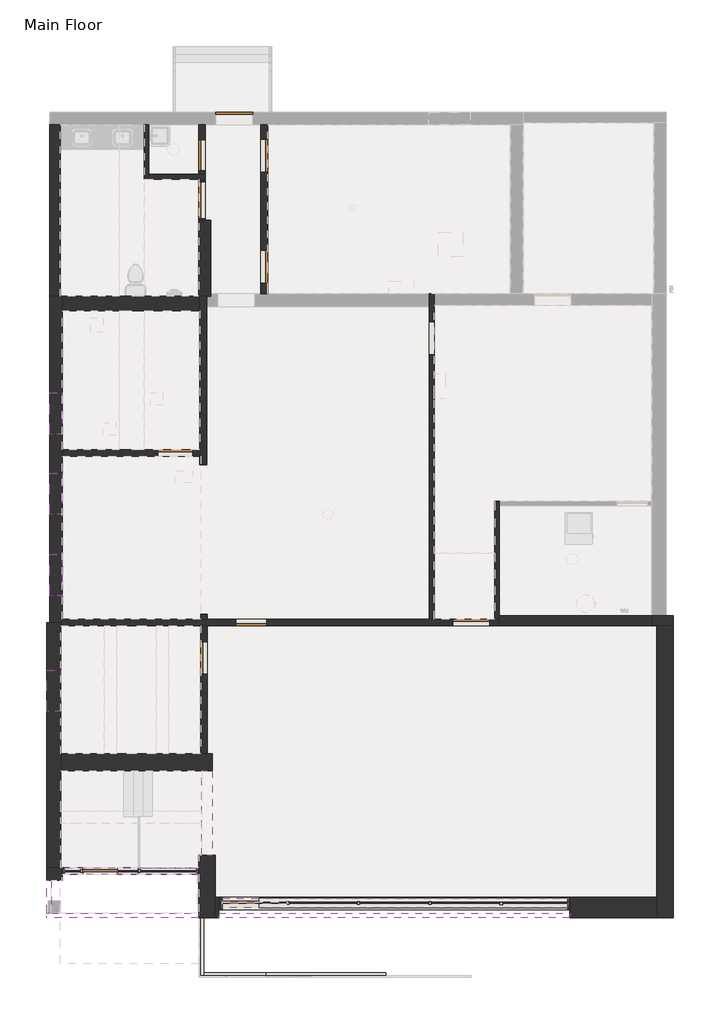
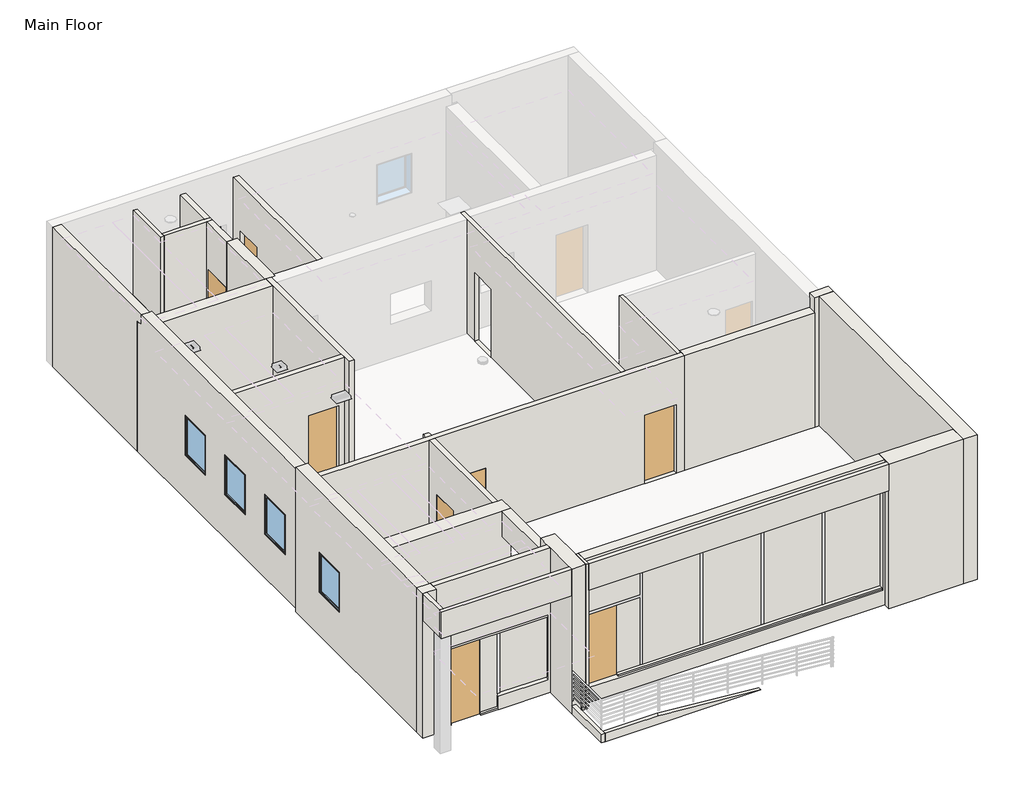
# One storey, part 1 of 4: 40 walls, 11 doors, 4 windows.
"""IFC4 building model written with IfcOpenShell, lengths in millimetres."""

from ifc_helpers import new_model, si_unit, frame, origin, origin_with_axes, place, context, project, spatial, polyline, outline, extrude, faceted_brep, transform, mapped, element, save
from components import door_8f505d4d, door_68a9ab76, door_cadf0f2e, door_f847712d, door_7d3dd137, door_64db3e48, door_4b2f242a, door_d5a2d4af, window_879c5c3a, window_c6188165

model = new_model("IFC4")

# Units and contexts
model_context = context("Model", 3, world=origin())
ifc_project = project(units=[si_unit("LENGTHUNIT", "METRE", prefix="MILLI")], contexts=[model_context])

# Site, building, storey
site = spatial("IfcSite", under=ifc_project)
building = spatial("IfcBuilding", under=site)
storey = spatial("IfcBuildingStorey", under=building, Name="Main Floor", Elevation=0.0)

# Doors
placement = place(None, origin())
door_shape = door_8f505d4d(model_context)
element("IfcDoor", 1, ObjectType="Planitar - Single Door_Flush Panel : 2'-10\" x 6'-8\"", at=placement, inside=storey, context=model_context, shape_type="MappedRepresentation", body=[
    mapped(door_shape, transform((-2570.8870003, 1779.2171333, 457.2), x_axis=(1.0, 0.0, 0.0), y_axis=(0.0, 1.0, 0.0), z_axis=(0.0, 0.0, 1.0))),
])
door_2_shape = door_68a9ab76(model_context)
element("IfcDoor", 2, ObjectType="Planitar - Single Door_Flush Panel : 2'-10\" x 6'-8\"", at=placement, inside=storey, context=model_context, shape_type="MappedRepresentation", body=[
    mapped(door_2_shape, transform((-4430.0919657, -8558.5828667, 0.0), x_axis=(-1.0, 0.0, 0.0), y_axis=(0.0, -1.0, 0.0), z_axis=(0.0, 0.0, 1.0))),
])
door_3_shape = door_cadf0f2e(model_context)
element("IfcDoor", 3, ObjectType="Planitar - Single Door_Flush Panel : 2'-6\" x 6'-8\"", at=placement, inside=storey, context=model_context, shape_type="MappedRepresentation", body=[
    mapped(door_3_shape, transform((-695.8227003, -2411.7828667, 457.2), x_axis=(-1.0, 0.0, 0.0), y_axis=(0.0, -1.0, 0.0), z_axis=(0.0, 0.0, 1.0))),
])
door_4_shape = door_f847712d(model_context)
element("IfcDoor", 4, ObjectType="Planitar - Single Door_Flush Panel : 2'-6\" x 6'-8\"", at=placement, inside=storey, context=model_context, shape_type="MappedRepresentation", body=[
    mapped(door_4_shape, transform((-1916.8370003, 9142.0421333, 457.2), x_axis=(0.0, -1.0, 0.0), y_axis=(1.0, 0.0, 0.0), z_axis=(0.0, 0.0, 1.0))),
])
door_5_shape = door_7d3dd137(model_context)
element("IfcDoor", 5, ObjectType="Planitar - Single Door_Flush Panel : 2'-8\" x 6'-8\"", at=placement, inside=storey, context=model_context, shape_type="MappedRepresentation", body=[
    mapped(door_5_shape, transform((-1866.0370003, -3288.0828667, 457.2), x_axis=(0.0, 1.0, 0.0), y_axis=(-1.0, 0.0, 0.0), z_axis=(0.0, 0.0, 1.0))),
])
element("IfcDoor", 6, ObjectType="Planitar - Single Door_Flush Panel : 2'-8\" x 6'-8\"", at=placement, inside=storey, context=model_context, shape_type="MappedRepresentation", body=[
    mapped(door_5_shape, transform((-373.7870003, 6389.3171333, 457.2), x_axis=(0.0, -1.0, 0.0), y_axis=(1.0, 0.0, 0.0), z_axis=(0.0, 0.0, 1.0))),
])
element("IfcDoor", 7, ObjectType="Planitar - Single Door_Flush Panel : 2'-8\" x 6'-8\"", at=placement, inside=storey, context=model_context, shape_type="MappedRepresentation", body=[
    mapped(door_5_shape, transform((-373.7870003, 9132.5171333, 457.2), x_axis=(0.0, -1.0, 0.0), y_axis=(1.0, 0.0, 0.0), z_axis=(0.0, 0.0, 1.0))),
])
door_6_shape = door_64db3e48(model_context)
element("IfcDoor", 8, ObjectType="Planitar - Single Door_Flush Panel : 3'-0\" x 6'-8\"", at=placement, inside=storey, context=model_context, shape_type="MappedRepresentation", body=[
    mapped(door_6_shape, transform((4747.4879997, -2411.7828667, 457.2), x_axis=(-1.0, 0.0, 0.0), y_axis=(0.0, -1.0, 0.0), z_axis=(0.0, 0.0, 1.0))),
])
element("IfcDoor", 9, ObjectType="Planitar - Single Door_Flush Panel : 3'-0\" x 6'-8\"", at=placement, inside=storey, context=model_context, shape_type="MappedRepresentation", body=[
    mapped(door_6_shape, transform((-1916.8370003, 8028.8871333, 457.2), x_axis=(0.0, -1.0, 0.0), y_axis=(1.0, 0.0, 0.0), z_axis=(0.0, 0.0, 1.0))),
])
door_7_shape = door_4b2f242a(model_context)
element("IfcDoor", 10, ObjectType="Planitar - Single Door_Flush Panel : 3'-0\" x 6'-8\"", at=placement, inside=storey, context=model_context, shape_type="MappedRepresentation", body=[
    mapped(door_7_shape, transform((-951.4226214, -9345.9828667, 457.2), x_axis=(-1.0, 0.0, 0.0), y_axis=(0.0, -1.0, 0.0), z_axis=(0.0, 0.0, 1.0))),
])
door_8_shape = door_d5a2d4af(model_context)
element("IfcDoor", 11, ObjectType="Planitar - Single Door_Flush Panel : 3'-0\" x 6'-8\"", at=placement, inside=storey, context=model_context, shape_type="MappedRepresentation", body=[
    mapped(door_8_shape, transform((-1119.9120003, 10053.2671333, 457.2), x_axis=(1.0, 0.0, 0.0), y_axis=(0.0, 1.0, 0.0), z_axis=(0.0, 0.0, 1.0))),
])

# Walls
element("IfcWall", 12, ObjectType="Planitar - Generic 1' - 4\"", at=placement, inside=storey, context=model_context, shape_type="Brep", body=[
    faceted_brep([(9333.0001997, -2494.3328667, 4419.6), (9333.0001997, -2494.3328667, 0.0), (9333.0001997, -9206.2828667, 0.0), (9333.0001997, -9714.2828667, 0.0), (9333.0001997, -9714.2828667, 4419.6), (9333.0001997, -9206.2828667, 4419.6), (9739.4001997, -2494.3328667, 0.0), (9739.4001997, -2494.3328667, 4419.6), (9739.4001997, -9714.2828667, 4419.6), (9739.4001997, -9714.2828667, 0.0)], [[[0, 1, 2, 3, 4, 5]], [[6, 7, 8, 9]], [[3, 2, 1, 6, 9]], [[0, 5, 4, 8, 7]], [[4, 3, 9, 8]], [[0, 7, 6, 1]]]),
])
element("IfcWall", 13, ObjectType="Planitar - Generic 1' - 8\"", at=placement, inside=storey, context=model_context, shape_type="Brep", body=[
    faceted_brep([(9333.0001997, -9206.2828667, 0.0), (7181.1756997, -9206.2828667, 0.0), (7181.1756997, -9206.2828667, 4419.6), (9333.0001997, -9206.2828667, 4419.6), (9333.0001997, -9714.2828667, 0.0), (9333.0001997, -9714.2828667, 4419.6), (7181.1756997, -9714.2828667, 4419.6), (7181.1756997, -9714.2828667, 0.0), (7181.1756997, -9511.0828667, 0.0), (7181.1756997, -9511.0828667, 4419.6)], [[[0, 1, 2, 3]], [[4, 5, 6, 7]], [[1, 0, 4, 7, 8]], [[3, 2, 9, 6, 5]], [[0, 3, 5, 4]], [[1, 8, 7, 6, 9, 2]]]),
])
element("IfcWall", 14, ObjectType="Planitar - Generic 1' - 4\"", at=placement, inside=storey, context=model_context, shape_type="Brep", body=[
    faceted_brep([(-1586.6370003, -9714.2828667, 4419.6), (-1586.6370003, -9714.2828667, 0.0), (-1586.6370003, -9206.2828667, 0.0), (-1586.6370003, -8164.8828667, 0.0), (-1586.6370003, -8164.8828667, 4419.6), (-1586.6370003, -9206.2828667, 4419.6), (-1993.0370003, -9714.2828667, 0.0), (-1993.0370003, -9714.2828667, 3606.8), (-1993.0370003, -9714.2828667, 4419.6), (-1993.0370003, -9599.9828667, 4419.6), (-1993.0370003, -8641.1328667, 4419.6), (-1993.0370003, -8476.0328667, 4419.6), (-1993.0370003, -8164.8828667, 4419.6), (-1993.0370003, -8164.8828667, 0.0), (-1993.0370003, -8476.0328667, 0.0), (-1993.0370003, -8641.1328667, 0.0), (-1873.3370003, -9714.2828667, 0.0), (-1987.6370003, -9714.2828667, 0.0)], [[[0, 1, 2, 3, 4, 5]], [[6, 7, 8, 9, 10, 11, 12, 13, 14, 15]], [[3, 2, 1, 16, 17, 6, 15, 14, 13]], [[4, 3, 13, 12]], [[0, 5, 4, 12, 11, 10, 9, 8]], [[0, 8, 7, 6, 17, 16, 1]]]),
])
element("IfcWall", 15, ObjectType="Planitar - Generic 6 1/2\"", at=placement, inside=storey, context=model_context, shape_type="Brep", body=[
    faceted_brep([(-1993.0370003, -8476.0328667, 0.0), (-3491.6370003, -8476.0328667, 0.0), (-3491.6370003, -8476.0328667, 406.4), (-2043.8370003, -8476.0328667, 406.4), (-2043.8370003, -8476.0328667, 2336.8), (-2043.8370003, -8476.0328667, 2387.6), (-5320.4370003, -8476.0328667, 2387.6), (-5320.4370003, -8476.0328667, 2336.8), (-5320.4370003, -8476.0328667, 50.8), (-5320.4370003, -8476.0328667, 0.0), (-5371.2370003, -8476.0328667, 0.0), (-5371.2370003, -8476.0328667, 4419.6), (-1993.0370003, -8476.0328667, 4419.6), (-1993.0370003, -8641.1328667, 0.0), (-1993.0370003, -8641.1328667, 4419.6), (-5371.2370003, -8641.1328667, 4419.6), (-5371.2370003, -8641.1328667, 0.0), (-5320.4370003, -8641.1328667, 0.0), (-5320.4370003, -8641.1328667, 50.8), (-5320.4370003, -8641.1328667, 2336.8), (-5320.4370003, -8641.1328667, 2387.6), (-2043.8370003, -8641.1328667, 2387.6), (-2043.8370003, -8641.1328667, 2336.8), (-2043.8370003, -8641.1328667, 406.4), (-3491.6370003, -8641.1328667, 406.4), (-3491.6370003, -8641.1328667, 0.0)], [[[0, 1, 2, 3, 4, 5, 6, 7, 8, 9, 10, 11, 12]], [[13, 14, 15, 16, 17, 18, 19, 20, 21, 22, 23, 24, 25]], [[0, 12, 14, 13]], [[1, 0, 13, 25]], [[11, 10, 16, 15]], [[12, 11, 15, 14]], [[6, 5, 21, 20]], [[10, 9, 17, 16]], [[6, 20, 19, 18, 17, 9, 8, 7]], [[3, 23, 22, 21, 5, 4]], [[2, 1, 25, 24]], [[3, 2, 24, 23]]]),
])
element("IfcWall", 16, ObjectType="Planitar - Generic 1' - 2\"", at=placement, inside=storey, context=model_context, shape_type="Brep", body=[
    faceted_brep([(-5402.8321003, -8476.0328667, 4419.6), (-5402.8321003, -8476.0328667, 0.0), (-5402.8321003, -6082.0828667, 0.0), (-5402.8321003, -5650.2828667, 0.0), (-5402.8321003, -2494.3328667, 0.0), (-5402.8321003, -2411.7828667, 0.0), (-5402.8321003, -2411.7828667, 3962.4), (-5402.8321003, -2411.7828667, 4419.6), (-5402.8321003, -4605.7078667, 1320.8), (-5402.8321003, -4605.7078667, 2540.0), (-5402.8321003, -3589.7078667, 2540.0), (-5402.8321003, -3589.7078667, 1320.8), (-5758.4321003, -8476.0328667, 0.0), (-5758.4321003, -8476.0328667, 4419.6), (-5758.4321003, -2411.7828667, 4419.6), (-5758.4321003, -2411.7828667, 0.0), (-5758.4321003, -4605.7078667, 1320.8), (-5758.4321003, -3589.7078667, 1320.8), (-5758.4321003, -3589.7078667, 2540.0), (-5758.4321003, -4605.7078667, 2540.0), (-5676.0370003, -2411.7828667, 0.0)], [[[0, 1, 2, 3, 4, 5, 6, 7], [8, 9, 10, 11]], [[12, 13, 14, 15], [16, 17, 18, 19]], [[5, 4, 3, 2, 1, 12, 15, 20]], [[0, 7, 14, 13]], [[9, 8, 16, 19]], [[10, 9, 19, 18]], [[11, 10, 18, 17]], [[8, 11, 17, 16]], [[5, 20, 15, 14, 7, 6]], [[0, 13, 12, 1]]]),
])
element("IfcWall", 17, ObjectType="Planitar - Generic 1' - 5\"", at=placement, inside=storey, context=model_context, shape_type="Brep", body=[
    faceted_brep([(-5402.8321003, -6082.0828667, 0.0), (-1662.8370003, -6082.0828667, 0.0), (-1662.8370003, -6082.0828667, 3200.4), (-1662.8370003, -6082.0828667, 3962.4), (-1916.8370003, -6082.0828667, 3962.4), (-5402.8321003, -6082.0828667, 3962.4), (-5402.8321003, -5650.2828667, 0.0), (-5402.8321003, -5650.2828667, 3962.4), (-1948.5870003, -5650.2828667, 3962.4), (-1783.4870003, -5650.2828667, 3962.4), (-1662.8370003, -5650.2828667, 3962.4), (-1662.8370003, -5650.2828667, 0.0), (-1783.4870003, -5650.2828667, 0.0), (-1948.5870003, -5650.2828667, 0.0)], [[[0, 1, 2, 3, 4, 5]], [[6, 7, 8, 9, 10, 11, 12, 13]], [[1, 0, 6, 13, 12, 11]], [[5, 4, 3, 10, 9, 8, 7]], [[0, 5, 7, 6]], [[3, 2, 1, 11, 10]]]),
])
element("IfcWall", 18, ObjectType="Planitar - Generic 1' - 0\"", at=placement, inside=storey, context=model_context, shape_type="Brep", body=[
    faceted_brep([(-5371.2370003, -2411.7828667, 4267.2), (-5371.2370003, -2411.7828667, 3962.4), (-5371.2370003, -2411.7828667, 0.0), (-5371.2370003, -2329.2328667, 0.0), (-5371.2370003, 1696.6671333, 0.0), (-5371.2370003, 1861.7671333, 0.0), (-5371.2370003, 5297.1171333, 0.0), (-5371.2370003, 5652.7171333, 0.0), (-5371.2370003, 5652.7171333, 3962.4), (-5371.2370003, 5474.9171333, 3962.4), (-5371.2370003, 5474.9171333, 4267.2), (-5371.2370003, 2249.1171333, 1320.8), (-5371.2370003, 2249.1171333, 2540.0), (-5371.2370003, 3265.1171333, 2540.0), (-5371.2370003, 3265.1171333, 1320.8), (-5371.2370003, 263.8184333, 1320.8), (-5371.2370003, 263.8184333, 2540.0), (-5371.2370003, 1279.8184333, 2540.0), (-5371.2370003, 1279.8184333, 1320.8), (-5371.2370003, -1744.1912667, 1320.8), (-5371.2370003, -1744.1912667, 2540.0), (-5371.2370003, -728.1912667, 2540.0), (-5371.2370003, -728.1912667, 1320.8), (-5676.0370003, -2411.7828667, 0.0), (-5676.0370003, -2411.7828667, 4267.2), (-5676.0370003, 5474.9171333, 4267.2), (-5676.0370003, 5474.9171333, 3962.4), (-5676.0370003, 5652.7171333, 3962.4), (-5676.0370003, 5652.7171333, 0.0), (-5676.0370003, 2249.1171333, 1320.8), (-5676.0370003, 3265.1171333, 1320.8), (-5676.0370003, 3265.1171333, 2540.0), (-5676.0370003, 2249.1171333, 2540.0), (-5676.0370003, 263.8184333, 1320.8), (-5676.0370003, 1279.8184333, 1320.8), (-5676.0370003, 1279.8184333, 2540.0), (-5676.0370003, 263.8184333, 2540.0), (-5676.0370003, -1744.1912667, 1320.8), (-5676.0370003, -728.1912667, 1320.8), (-5676.0370003, -728.1912667, 2540.0), (-5676.0370003, -1744.1912667, 2540.0), (-5402.8321003, -2411.7828667, 0.0), (-5422.0370003, 5652.7171333, 0.0), (-5422.0370003, 5474.9171333, 4267.2), (-5422.0370003, 5474.9171333, 3962.4), (-5422.0370003, 5652.7171333, 3962.4)], [[[0, 1, 2, 3, 4, 5, 6, 7, 8, 9, 10], [11, 12, 13, 14], [15, 16, 17, 18], [19, 20, 21, 22]], [[23, 24, 25, 26, 27, 28], [29, 30, 31, 32], [33, 34, 35, 36], [37, 38, 39, 40]], [[7, 6, 5, 4, 3, 2, 41, 23, 28, 42]], [[0, 10, 43, 25, 24]], [[12, 11, 29, 32]], [[13, 12, 32, 31]], [[14, 13, 31, 30]], [[11, 14, 30, 29]], [[16, 15, 33, 36]], [[17, 16, 36, 35]], [[18, 17, 35, 34]], [[15, 18, 34, 33]], [[20, 19, 37, 40]], [[21, 20, 40, 39]], [[22, 21, 39, 38]], [[19, 22, 38, 37]], [[10, 9, 44, 26, 25, 43]], [[26, 44, 9, 8, 45, 27]], [[8, 7, 42, 28, 27, 45]], [[0, 24, 23, 41, 2, 1]]]),
])
element("IfcWall", 19, ObjectType="Planitar - Generic 10\"", at=placement, inside=storey, context=model_context, shape_type="Brep", body=[
    faceted_brep([(9739.4001997, -2240.3328667, 4419.6), (9739.4001997, -2240.3328667, 0.0), (9563.9629997, -2240.3328667, 0.0), (9208.3629997, -2240.3328667, 0.0), (9208.3629997, -2240.3328667, 3962.4), (9208.3629997, -2240.3328667, 4267.2), (9208.3629997, -2240.3328667, 4419.6), (9739.4001997, -2494.3328667, 0.0), (9739.4001997, -2494.3328667, 4419.6), (9333.0001997, -2494.3328667, 4419.6), (9208.3629997, -2494.3328667, 4419.6), (9208.3629997, -2494.3328667, 3962.4), (9208.3629997, -2494.3328667, 0.0), (9333.0001997, -2494.3328667, 0.0)], [[[0, 1, 2, 3, 4, 5, 6]], [[7, 8, 9, 10, 11, 12, 13]], [[3, 2, 1, 7, 13, 12]], [[6, 5, 4, 3, 12, 11, 10]], [[0, 6, 10, 9, 8]], [[0, 8, 7, 1]]]),
])
element("IfcWall", 20, ObjectType="Planitar - Generic 6 1/2\"", at=placement, inside=storey, context=model_context, shape_type="Brep", body=[
    faceted_brep([(5436.4629997, -2329.2328667, 0.0), (5322.1629997, -2329.2328667, 0.0), (3823.5629997, -2329.2328667, 0.0), (3709.2629997, -2329.2328667, 0.0), (-1781.6727003, -2329.2328667, 0.0), (-1946.7727003, -2329.2328667, 0.0), (-5371.2370003, -2329.2328667, 0.0), (-5371.2370003, -2329.2328667, 3962.4), (-1946.7727003, -2329.2328667, 3962.4), (-1781.6727003, -2329.2328667, 3962.4), (3709.2629997, -2329.2328667, 3962.4), (3823.5629997, -2329.2328667, 3962.4), (5322.1629997, -2329.2328667, 3962.4), (5436.4629997, -2329.2328667, 3962.4), (-314.8227003, -2329.2328667, 457.2), (-314.8227003, -2329.2328667, 2540.0), (-1076.8227003, -2329.2328667, 2540.0), (-1076.8227003, -2329.2328667, 457.2), (5204.9879997, -2329.2328667, 457.2), (5204.9879997, -2329.2328667, 2540.0), (4289.9879997, -2329.2328667, 2540.0), (4289.9879997, -2329.2328667, 457.2), (5436.4629997, -2494.3328667, 0.0), (5436.4629997, -2494.3328667, 3962.4), (-1783.4870003, -2494.3328667, 3962.4), (-1948.5870003, -2494.3328667, 3962.4), (-5402.8321003, -2494.3328667, 3962.4), (-5402.8321003, -2494.3328667, 0.0), (-1948.5870003, -2494.3328667, 0.0), (-1783.4870003, -2494.3328667, 0.0), (-314.8227003, -2494.3328667, 457.2), (-1076.8227003, -2494.3328667, 457.2), (-1076.8227003, -2494.3328667, 2540.0), (-314.8227003, -2494.3328667, 2540.0), (5204.9879997, -2494.3328667, 457.2), (4289.9879997, -2494.3328667, 457.2), (4289.9879997, -2494.3328667, 2540.0), (5204.9879997, -2494.3328667, 2540.0), (-5402.8321003, -2411.7828667, 0.0), (-5371.2370003, -2411.7828667, 0.0), (-5371.2370003, -2411.7828667, 3962.4), (-5402.8321003, -2411.7828667, 3962.4)], [[[0, 1, 2, 3, 4, 5, 6, 7, 8, 9, 10, 11, 12, 13], [14, 15, 16, 17], [18, 19, 20, 21]], [[22, 23, 24, 25, 26, 27, 28, 29], [30, 31, 32, 33], [34, 35, 36, 37]], [[6, 5, 4, 3, 2, 1, 0, 22, 29, 28, 27, 38, 39]], [[13, 12, 11, 10, 9, 8, 7, 40, 41, 26, 25, 24, 23]], [[0, 13, 23, 22]], [[31, 30, 14, 17]], [[32, 31, 17, 16]], [[33, 32, 16, 15]], [[30, 33, 15, 14]], [[35, 34, 18, 21]], [[36, 35, 21, 20]], [[37, 36, 20, 19]], [[34, 37, 19, 18]], [[7, 6, 39, 40]], [[39, 38, 41, 40]], [[38, 27, 26, 41]]]),
])
element("IfcWall", 21, ObjectType="Planitar - Generic 6 1/2\"", at=placement, inside=storey, context=model_context, shape_type="SweptSolid", body=[
    extrude(outline(polyline([(-5650.2828667, 0.0), (-5650.2828667, 3962.4), (-2494.3328667, 3962.4), (-2494.3328667, 0.0), (-5650.2828667, 0.0)]), holes=[polyline([(-3694.5828667, 457.2), (-2881.5828667, 457.2), (-2881.5828667, 2540.0), (-3694.5828667, 2540.0), (-3694.5828667, 457.2)])]), frame((-1948.5870003, 0.0, 0.0), z_axis=(1.0, 0.0, 0.0), x_axis=(0.0, 1.0, 0.0)), (0.0, 0.0, 1.0), 165.1),
])
element("IfcWall", 22, ObjectType="Planitar - Generic 6 1/2\"", at=placement, inside=storey, context=model_context, shape_type="SweptSolid", body=[
    extrude(outline(polyline([(-1781.6727003, -2200.9628667), (-1781.6727003, -2329.2328667), (-1946.7727003, -2329.2328667), (-1946.7727003, -2200.9628667), (-1781.6727003, -2200.9628667)])), origin_with_axes(), (0.0, 0.0, 1.0), 3962.4),
])
element("IfcWall", 23, ObjectType="Planitar - Generic 6 1/2\"", at=placement, inside=storey, context=model_context, shape_type="Brep", body=[
    faceted_brep([(-1802.5370003, 1494.7371333, 0.0), (-1802.5370003, 5392.3671333, 0.0), (-1802.5370003, 5652.7171333, 0.0), (-1802.5370003, 5652.7171333, 3962.4), (-1802.5370003, 5392.3671333, 3962.4), (-1802.5370003, 1494.7371333, 3962.4), (-1967.6370003, 1494.7371333, 0.0), (-1967.6370003, 1494.7371333, 3962.4), (-1967.6370003, 1696.6671333, 3962.4), (-1967.6370003, 1861.7671333, 3962.4), (-1967.6370003, 5297.1171333, 3962.4), (-1967.6370003, 5652.7171333, 3962.4), (-1967.6370003, 5652.7171333, 0.0), (-1967.6370003, 5297.1171333, 0.0), (-1967.6370003, 1861.7671333, 0.0), (-1967.6370003, 1696.6671333, 0.0)], [[[0, 1, 2, 3, 4, 5]], [[6, 7, 8, 9, 10, 11, 12, 13, 14, 15]], [[2, 1, 0, 6, 15, 14, 13, 12]], [[5, 4, 3, 11, 10, 9, 8, 7]], [[0, 5, 7, 6]], [[3, 2, 12, 11]]]),
])
element("IfcWall", 24, ObjectType="Planitar - Generic 6 1/2\"", at=placement, inside=storey, context=model_context, shape_type="SweptSolid", body=[
    extrude(outline(polyline([(0.0, -1967.6370003), (3962.4, -1967.6370003), (3962.4, -5371.2370003), (0.0, -5371.2370003), (0.0, -1967.6370003)]), holes=[polyline([(457.2, -3002.8870003), (2540.0, -3002.8870003), (2540.0, -2138.8870003), (457.2, -2138.8870003), (457.2, -3002.8870003)])]), frame((0.0, 1696.6671333, 0.0), z_axis=(0.0, 1.0, 0.0), x_axis=(0.0, 0.0, 1.0)), (0.0, 0.0, 1.0), 165.1),
])
element("IfcWall", 25, ObjectType="Planitar - Generic 4 1/2\"", at=placement, inside=storey, context=model_context, shape_type="Brep", body=[
    faceted_brep([(3823.5629997, -2329.2328667, 0.0), (3823.5629997, 5430.4671333, 0.0), (3823.5629997, 5722.5671333, 0.0), (3823.5629997, 5722.5671333, 3962.4), (3823.5629997, 5430.4671333, 3962.4), (3823.5629997, -2329.2328667, 3962.4), (3823.5629997, 5020.8921333, 2540.0), (3823.5629997, 5020.8921333, 457.2), (3823.5629997, 4208.0921333, 457.2), (3823.5629997, 4208.0921333, 2540.0), (3709.2629997, -2329.2328667, 0.0), (3709.2629997, -2329.2328667, 3962.4), (3709.2629997, 5392.3671333, 3962.4), (3709.2629997, 5722.5671333, 3962.4), (3709.2629997, 5722.5671333, 0.0), (3709.2629997, 5392.3671333, 0.0), (3709.2629997, 5020.8921333, 2540.0), (3709.2629997, 4208.0921333, 2540.0), (3709.2629997, 4208.0921333, 457.2), (3709.2629997, 5020.8921333, 457.2)], [[[0, 1, 2, 3, 4, 5], [6, 7, 8, 9]], [[10, 11, 12, 13, 14, 15], [16, 17, 18, 19]], [[2, 1, 0, 10, 15, 14]], [[5, 4, 3, 13, 12, 11]], [[0, 5, 11, 10]], [[3, 2, 14, 13]], [[7, 6, 16, 19]], [[8, 7, 19, 18]], [[9, 8, 18, 17]], [[6, 9, 17, 16]]]),
])
element("IfcWall", 26, ObjectType="Planitar - Generic 4 1/2\"", at=placement, inside=storey, context=model_context, shape_type="Brep", body=[
    faceted_brep([(5436.4629997, -2329.2328667, 0.0), (5436.4629997, -2240.3328667, 0.0), (5436.4629997, 471.1171333, 0.0), (5436.4629997, 585.4171333, 0.0), (5436.4629997, 585.4171333, 3962.4), (5436.4629997, 471.1171333, 3962.4), (5436.4629997, -2240.3328667, 3962.4), (5436.4629997, -2329.2328667, 3962.4), (5322.1629997, -2329.2328667, 0.0), (5322.1629997, -2329.2328667, 3962.4), (5322.1629997, 585.4171333, 3962.4), (5322.1629997, 585.4171333, 0.0)], [[[0, 1, 2, 3, 4, 5, 6, 7]], [[8, 9, 10, 11]], [[3, 2, 1, 0, 8, 11]], [[7, 6, 5, 4, 10, 9]], [[4, 3, 11, 10]], [[0, 7, 9, 8]]]),
])
element("IfcWall", 27, ObjectType="Planitar - Generic 6 1/2\"", at=placement, inside=storey, context=model_context, shape_type="SweptSolid", body=[
    extrude(outline(polyline([(5722.5671333, 0.0), (5722.5671333, 3962.4), (9900.8671333, 3962.4), (9900.8671333, 0.0), (5722.5671333, 0.0)]), holes=[polyline([(6795.8171333, 457.2), (6795.8171333, 2540.0), (5982.8171333, 2540.0), (5982.8171333, 457.2), (6795.8171333, 457.2)]), polyline([(9539.0171333, 457.2), (9539.0171333, 2540.0), (8726.0171333, 2540.0), (8726.0171333, 457.2), (9539.0171333, 457.2)])]), frame((-456.3370003, 0.0, 0.0), z_axis=(1.0, 0.0, 0.0), x_axis=(0.0, 1.0, 0.0)), (0.0, 0.0, 1.0), 165.1),
])
element("IfcWall", 28, ObjectType="Planitar - Generic 4 1/2\"", at=placement, inside=storey, context=model_context, shape_type="Brep", body=[
    faceted_brep([(-3345.5870003, 9900.8671333, 0.0), (-3345.5870003, 8554.6671333, 0.0), (-3345.5870003, 8554.6671333, 3962.4), (-3345.5870003, 9900.8671333, 3962.4), (-3231.2870003, 9900.8671333, 0.0), (-3231.2870003, 9900.8671333, 3962.4), (-3231.2870003, 8668.9671333, 3962.4), (-3231.2870003, 8554.6671333, 3962.4), (-3231.2870003, 8554.6671333, 0.0), (-3231.2870003, 8668.9671333, 0.0)], [[[0, 1, 2, 3]], [[4, 5, 6, 7, 8, 9]], [[1, 0, 4, 9, 8]], [[3, 2, 7, 6, 5]], [[0, 3, 5, 4]], [[2, 1, 8, 7]]]),
])
element("IfcWall", 29, ObjectType="Planitar - Generic 4 1/2\"", at=placement, inside=storey, context=model_context, shape_type="Brep", body=[
    faceted_brep([(-3231.2870003, 8554.6671333, 0.0), (-1999.3870003, 8554.6671333, 0.0), (-1834.2870003, 8554.6671333, 0.0), (-1834.2870003, 8554.6671333, 3962.4), (-1999.3870003, 8554.6671333, 3962.4), (-3231.2870003, 8554.6671333, 3962.4), (-3231.2870003, 8668.9671333, 0.0), (-3231.2870003, 8668.9671333, 3962.4), (-1999.3870003, 8668.9671333, 3962.4), (-1834.2870003, 8668.9671333, 3962.4), (-1834.2870003, 8668.9671333, 0.0), (-1999.3870003, 8668.9671333, 0.0)], [[[0, 1, 2, 3, 4, 5]], [[6, 7, 8, 9, 10, 11]], [[2, 1, 0, 6, 11, 10]], [[5, 4, 3, 9, 8, 7]], [[0, 5, 7, 6]], [[3, 2, 10, 9]]]),
])
element("IfcWall", 30, ObjectType="Planitar - Generic 6 1/2\"", at=placement, inside=storey, context=model_context, shape_type="SweptSolid", body=[
    extrude(outline(polyline([(8668.9671333, 0.0), (8668.9671333, 3962.4), (9900.8671333, 3962.4), (9900.8671333, 0.0), (8668.9671333, 0.0)]), holes=[polyline([(9523.0421333, 457.2), (9523.0421333, 2540.0), (8761.0421333, 2540.0), (8761.0421333, 457.2), (9523.0421333, 457.2)])]), frame((-1999.3870003, 0.0, 0.0), z_axis=(1.0, 0.0, 0.0), x_axis=(0.0, 1.0, 0.0)), (0.0, 0.0, 1.0), 165.1),
])
element("IfcWall", 31, ObjectType="Planitar - Generic 6 1/2\"", at=placement, inside=storey, context=model_context, shape_type="SweptSolid", body=[
    extrude(outline(polyline([(8554.6671333, 0.0), (7539.9371333, 0.0), (7539.9371333, 3962.4), (8554.6671333, 3962.4), (8554.6671333, 0.0)]), holes=[polyline([(7571.3871333, 457.2), (8486.3871333, 457.2), (8486.3871333, 2540.0), (7571.3871333, 2540.0), (7571.3871333, 457.2)])]), frame((-1999.3870003, 0.0, 0.0), z_axis=(1.0, 0.0, 0.0), x_axis=(0.0, 1.0, 0.0)), (0.0, 0.0, 1.0), 165.1),
])
element("IfcWall", 32, ObjectType="Planitar - Generic 1' - 2\"", at=placement, inside=storey, context=model_context, shape_type="Brep", body=[
    faceted_brep([(-1967.6370003, 5652.7171333, 0.0), (-1999.3870003, 5652.7171333, 0.0), (-5371.2370003, 5652.7171333, 0.0), (-5371.2370003, 5652.7171333, 3962.4), (-1999.3870003, 5652.7171333, 3962.4), (-1967.6370003, 5652.7171333, 3962.4), (-1967.6370003, 5297.1171333, 0.0), (-1967.6370003, 5297.1171333, 3962.4), (-5371.2370003, 5297.1171333, 3962.4), (-5371.2370003, 5297.1171333, 0.0), (-5371.2370003, 5474.9171333, 3962.4)], [[[0, 1, 2, 3, 4, 5]], [[6, 7, 8, 9]], [[2, 1, 0, 6, 9]], [[5, 4, 3, 10, 8, 7]], [[0, 5, 7, 6]], [[3, 2, 9, 8, 10]]]),
])
element("IfcWall", 33, ObjectType="Planitar - Generic 10\"", at=placement, inside=storey, context=model_context, shape_type="SweptSolid", body=[
    extrude(outline(polyline([(5652.7171333, 0.0), (5652.7171333, 3962.4), (5474.9171333, 3962.4), (5474.9171333, 4267.2), (9900.8671333, 4267.2), (9900.8671333, 0.0), (5652.7171333, 0.0)])), frame((-5676.0370003, 0.0, 0.0), z_axis=(1.0, 0.0, 0.0), x_axis=(0.0, 1.0, 0.0)), (0.0, 0.0, 1.0), 254.0),
])
element("IfcWall", 34, ObjectType="Planitar - Generic 1' - 0\"", at=placement, inside=storey, context=model_context, shape_type="Brep", body=[
    faceted_brep([(-1694.5870003, 5652.7171333, 0.0), (-1694.5870003, 5722.5671333, 0.0), (-1694.5870003, 7539.9371333, 0.0), (-1694.5870003, 7539.9371333, 3962.4), (-1694.5870003, 5722.5671333, 3962.4), (-1694.5870003, 5652.7171333, 3962.4), (-1999.3870003, 5652.7171333, 0.0), (-1999.3870003, 5652.7171333, 3962.4), (-1999.3870003, 7539.9371333, 3962.4), (-1999.3870003, 7539.9371333, 0.0), (-1802.5370003, 5652.7171333, 0.0), (-1967.6370003, 5652.7171333, 0.0), (-1834.2870003, 7539.9371333, 0.0), (-1834.2870003, 7539.9371333, 3962.4), (-1967.6370003, 5652.7171333, 3962.4), (-1802.5370003, 5652.7171333, 3962.4)], [[[0, 1, 2, 3, 4, 5]], [[6, 7, 8, 9]], [[2, 1, 0, 10, 11, 6, 9, 12]], [[3, 2, 12, 9, 8, 13]], [[5, 4, 3, 13, 8, 7, 14, 15]], [[0, 5, 15, 14, 7, 6, 11, 10]]]),
])
element("IfcWall", 35, ObjectType="Planitar - Generic 1' - 0\"", at=placement, inside=storey, context=model_context, shape_type="Brep", body=[
    faceted_brep([(-5371.2370003, -8476.0328667, 4419.6), (-5371.2370003, -8476.0328667, 0.0), (-5402.8321003, -8476.0328667, 0.0), (-5758.4321003, -8476.0328667, 0.0), (-5758.4321003, -8476.0328667, 4419.6), (-5402.8321003, -8476.0328667, 4419.6), (-5371.2370003, -8780.8328667, 0.0), (-5371.2370003, -8780.8328667, 4419.6), (-5644.1321003, -8780.8328667, 4419.6), (-5758.4321003, -8780.8328667, 4419.6), (-5758.4321003, -8780.8328667, 3606.8), (-5758.4321003, -8780.8328667, 0.0), (-5371.2370003, -8641.1328667, 0.0), (-5371.2370003, -8641.1328667, 4419.6)], [[[0, 1, 2, 3, 4, 5]], [[6, 7, 8, 9, 10, 11]], [[3, 2, 1, 12, 6, 11]], [[0, 5, 4, 9, 8, 7, 13]], [[0, 13, 7, 6, 12, 1]], [[3, 11, 10, 9, 4]]]),
])
element("IfcWall", 36, ObjectType="Planitar - Generic 1' - 8\"", at=placement, inside=storey, context=model_context, shape_type="Brep", body=[
    faceted_brep([(-1505.6243003, -9206.2828667, 4419.6), (-1505.6243003, -9206.2828667, 0.0), (-1586.6370003, -9206.2828667, 0.0), (-1586.6370003, -9206.2828667, 4419.6), (-1505.6243003, -9714.2828667, 0.0), (-1505.6243003, -9714.2828667, 4419.6), (-1586.6370003, -9714.2828667, 4419.6), (-1586.6370003, -9714.2828667, 0.0), (-1505.6243003, -9511.0828667, 0.0), (-1505.6243003, -9511.0828667, 4419.6)], [[[0, 1, 2, 3]], [[4, 5, 6, 7]], [[2, 1, 8, 4, 7]], [[0, 3, 6, 5, 9]], [[0, 9, 5, 4, 8, 1]], [[2, 7, 6, 3]]]),
])
element("IfcWall", 37, ObjectType="Planitar - Generic 4 1/2\"", at=placement, inside=storey, context=model_context, shape_type="SweptSolid", body=[
    extrude(outline(polyline([(-3377.3370003, -7211.1128667), (-3377.3370003, -8417.6128667), (-3491.6370003, -8417.6128667), (-3491.6370003, -7211.1128667), (-3377.3370003, -7211.1128667)])), origin_with_axes(), (0.0, 0.0, 1.0), 406.4),
])
element("IfcWall", 38, ObjectType="Planitar - Generic 1' - 0\"", at=placement, inside=storey, context=model_context, shape_type="Brep", body=[
    faceted_brep([(-1505.6243003, -9511.0828667, 0.0), (7181.1756997, -9511.0828667, 0.0), (7181.1756997, -9511.0828667, 4419.6), (-1505.6243003, -9511.0828667, 4419.6), (-1408.9226214, -9511.0828667, 3708.4), (7124.0256997, -9511.0828667, 3708.4), (7124.0256997, -9511.0828667, 457.2), (-493.9226214, -9511.0828667, 457.2), (-1408.9226214, -9511.0828667, 457.2), (-1408.9226214, -9511.0828667, 2590.8), (7181.1756997, -9206.2828667, 0.0), (-1505.6243003, -9206.2828667, 0.0), (-1505.6243003, -9206.2828667, 4419.6), (7181.1756997, -9206.2828667, 4419.6), (7124.0256997, -9206.2828667, 3708.4), (-1408.9226214, -9206.2828667, 3708.4), (-1408.9226214, -9206.2828667, 2590.8), (-1408.9226214, -9206.2828667, 457.2), (-493.9226214, -9206.2828667, 457.2), (7124.0256997, -9206.2828667, 457.2), (7124.0256997, -9333.2828667, 3708.4), (7124.0256997, -9358.6828667, 3708.4), (7124.0256997, -9460.2828667, 457.2), (7124.0256997, -9231.6828667, 457.2), (-1410.3743003, -9314.2328667, 2654.3), (-1410.3743003, -9377.7328667, 2654.3), (-1410.3743003, -9377.7328667, 2590.8), (-1410.3743003, -9314.2328667, 2590.8), (-1408.9226214, -9314.2328667, 2654.3), (-1408.9226214, -9377.7328667, 2654.3), (-1408.9226214, -9314.2328667, 2590.8), (-1408.9226214, -9377.7328667, 2590.8)], [[[0, 1, 2, 3], [4, 5, 6, 7, 8, 9]], [[10, 11, 12, 13], [14, 15, 16, 17, 18, 19]], [[1, 0, 11, 10]], [[3, 2, 13, 12]], [[5, 4, 15, 14, 20, 21]], [[2, 1, 10, 13]], [[7, 6, 22, 23, 19, 18, 17, 8]], [[0, 3, 12, 11]], [[24, 25, 26, 27]], [[25, 24, 28, 29]], [[24, 27, 30, 28]], [[27, 26, 31, 30]], [[26, 25, 29, 31]], [[8, 17, 16, 15, 4, 9], [29, 28, 30, 31]], [[19, 23, 22, 6, 5, 21, 20, 14]]]),
])
element("IfcWall", 39, ObjectType="Planitar - Generic 9\"", at=placement, inside=storey, context=model_context, shape_type="Brep", body=[
    faceted_brep([(7124.0256997, -9460.2828667, 457.2), (7124.0256997, -9460.2828667, 508.0), (-493.9226214, -9460.2828667, 508.0), (-493.9226214, -9460.2828667, 457.2), (7124.0256997, -9231.6828667, 508.0), (7124.0256997, -9231.6828667, 457.2), (-493.9226214, -9231.6828667, 457.2), (-493.9226214, -9231.6828667, 508.0), (-493.9226214, -9358.6828667, 508.0), (-493.9226214, -9333.2828667, 508.0), (7124.0256997, -9333.2828667, 508.0), (7124.0256997, -9358.6828667, 508.0)], [[[0, 1, 2, 3]], [[4, 5, 6, 7]], [[3, 2, 8, 9, 7, 6]], [[1, 0, 5, 4, 10, 11]], [[1, 11, 10, 4, 7, 9, 8, 2]], [[5, 0, 3, 6]]]),
    faceted_brep([(-1410.3743003, -9460.2828667, 508.0), (-1410.3743003, -9460.2828667, 457.2), (-1408.9226214, -9460.2828667, 457.2), (-1408.9226214, -9460.2828667, 508.0), (-1410.3743003, -9231.6828667, 457.2), (-1410.3743003, -9231.6828667, 508.0), (-1408.9226214, -9231.6828667, 508.0), (-1408.9226214, -9231.6828667, 457.2), (-1408.9226214, -9333.2828667, 508.0), (-1408.9226214, -9358.6828667, 508.0), (-1410.3743003, -9333.2828667, 508.0), (-1410.3743003, -9358.6828667, 508.0)], [[[0, 1, 2, 3]], [[4, 5, 6, 7]], [[3, 2, 7, 6, 8, 9]], [[5, 10, 11, 0, 3, 9, 8, 6]], [[1, 0, 11, 10, 5, 4]], [[1, 4, 7, 2]]]),
])
element("IfcWall", 40, ObjectType="Planitar - Curtain wall (Curved)", at=placement, inside=storey, context=model_context, shape_type="SweptSolid", body=[
    extrude(outline(polyline([(508.0, 7124.0256997), (3708.4, 7124.0256997), (3708.4, 5517.4756997), (527.05, 5517.4756997), (527.05, 5453.9756997), (3708.4, 5453.9756997), (3708.4, 3752.1756997), (527.05, 3752.1756997), (527.05, 3688.6756997), (3708.4, 3688.6756997), (3708.4, 1986.8756997), (527.05, 1986.8756997), (527.05, 1923.3756997), (3708.4, 1923.3756997), (3708.4, 246.9756997), (527.05, 246.9756997), (527.05, 183.4756997), (2590.8, 183.4756997), (2590.8, -493.9226214), (508.0, -493.9226214), (508.0, 7124.0256997)])), frame((0.0, -9358.6828667, 0.0), z_axis=(0.0, 1.0, 0.0), x_axis=(0.0, 0.0, 1.0)), (0.0, 0.0, 1.0), 25.4),
    extrude(outline(polyline([(-1410.3743003, -9358.6828667), (-1410.3743003, -9333.2828667), (-1408.9226214, -9333.2828667), (-1408.9226214, -9358.6828667), (-1410.3743003, -9358.6828667)])), frame((0.0, 0.0, 508.0), z_axis=(0.0, 0.0, 1.0), x_axis=(1.0, 0.0, 0.0)), (0.0, 0.0, 1.0), 2082.8),
    extrude(outline(polyline([(183.4756997, -9358.6828667), (-1410.3743003, -9358.6828667), (-1410.3743003, -9333.2828667), (183.4756997, -9333.2828667), (183.4756997, -9358.6828667)])), frame((0.0, 0.0, 2654.3), z_axis=(0.0, 0.0, 1.0), x_axis=(1.0, 0.0, 0.0)), (0.0, 0.0, 1.0), 1054.1),
])
element("IfcWall", 41, ObjectType="Planitar - Generic 9\"", at=placement, inside=storey, context=model_context, shape_type="Brep", body=[
    faceted_brep([(7124.0256997, -9460.2828667, 3759.2), (-1410.3743003, -9460.2828667, 3759.2), (-1410.3743003, -9460.2828667, 3708.4), (7124.0256997, -9460.2828667, 3708.4), (7124.0256997, -9231.6828667, 3759.2), (7124.0256997, -9231.6828667, 3708.4), (-1410.3743003, -9231.6828667, 3708.4), (-1410.3743003, -9231.6828667, 3759.2), (-1410.3743003, -9333.2828667, 3708.4), (-1410.3743003, -9358.6828667, 3708.4), (7124.0256997, -9333.2828667, 3708.4), (7124.0256997, -9358.6828667, 3708.4)], [[[0, 1, 2, 3]], [[4, 5, 6, 7]], [[1, 0, 4, 7]], [[2, 1, 7, 6, 8, 9]], [[3, 2, 9, 8, 6, 5, 10, 11]], [[0, 3, 11, 10, 5, 4]]]),
])
element("IfcWall", 42, ObjectType="Planitar - Generic 10\"", at=placement, inside=storey, context=model_context, shape_type="Brep", body=[
    faceted_brep([(9208.3629997, -2240.3328667, 0.0), (5436.4629997, -2240.3328667, 0.0), (5436.4629997, -2240.3328667, 3962.4), (9208.3629997, -2240.3328667, 3962.4), (9208.3629997, -2494.3328667, 0.0), (9208.3629997, -2494.3328667, 3962.4), (5436.4629997, -2494.3328667, 3962.4), (5436.4629997, -2494.3328667, 0.0), (5436.4629997, -2329.2328667, 0.0), (5436.4629997, -2329.2328667, 3962.4)], [[[0, 1, 2, 3]], [[4, 5, 6, 7]], [[1, 0, 4, 7, 8]], [[3, 2, 9, 6, 5]], [[0, 3, 5, 4]], [[2, 1, 8, 7, 6, 9]]]),
])
element("IfcWall", 43, ObjectType="Planitar - Generic 10\"", at=placement, inside=storey, context=model_context, shape_type="SweptSolid", body=[
    extrude(outline(polyline([(-1662.8370003, -6082.0828667), (-1662.8370003, -8164.8828667), (-1916.8370003, -8164.8828667), (-1916.8370003, -6082.0828667), (-1662.8370003, -6082.0828667)])), frame((0.0, 0.0, 3200.4), z_axis=(0.0, 0.0, 1.0), x_axis=(1.0, 0.0, 0.0)), (0.0, 0.0, 1.0), 762.0),
])
element("IfcWall", 44, ObjectType="Planitar - Generic 6 1/2\"", at=placement, inside=storey, context=model_context, shape_type="Brep", body=[
    faceted_brep([(-5320.4370003, -8641.1328667, 50.8), (-5320.4370003, -8641.1328667, 0.0), (-4862.0919657, -8641.1328667, 0.0), (-4862.0919657, -8641.1328667, 50.8), (-5320.4370003, -8476.0328667, 0.0), (-5320.4370003, -8476.0328667, 50.8), (-4862.0919657, -8476.0328667, 50.8), (-4862.0919657, -8476.0328667, 0.0), (-5320.4370003, -8545.8828667, 50.8), (-5320.4370003, -8571.2828667, 50.8), (-4862.0919657, -8571.2828667, 50.8), (-4862.0919657, -8545.8828667, 50.8)], [[[0, 1, 2, 3]], [[4, 5, 6, 7]], [[5, 8, 9, 0, 3, 10, 11, 6]], [[1, 0, 9, 8, 5, 4]], [[1, 4, 7, 2]], [[3, 2, 7, 6, 11, 10]]]),
    faceted_brep([(-2043.8370003, -8641.1328667, 0.0), (-2043.8370003, -8641.1328667, 50.8), (-3998.0919657, -8641.1328667, 50.8), (-3998.0919657, -8641.1328667, 0.0), (-2043.8370003, -8476.0328667, 50.8), (-2043.8370003, -8476.0328667, 0.0), (-3998.0919657, -8476.0328667, 0.0), (-3998.0919657, -8476.0328667, 50.8), (-3998.0919657, -8545.8828667, 50.8), (-3998.0919657, -8571.2828667, 50.8)], [[[0, 1, 2, 3]], [[4, 5, 6, 7]], [[1, 4, 7, 8, 9, 2]], [[5, 0, 3, 6]], [[3, 2, 9, 8, 7, 6]], [[1, 0, 5, 4]]]),
])
element("IfcWall", 45, ObjectType="Planitar - Curtain wall (Curved)", at=placement, inside=storey, context=model_context, shape_type="SweptSolid", body=[
    extrude(outline(polyline([(-5320.4370003, -8571.2828667), (-5320.4370003, -8545.8828667), (-4926.7370003, -8545.8828667), (-4926.7370003, -8571.2828667), (-5320.4370003, -8571.2828667)])), frame((0.0, 0.0, 50.8), z_axis=(0.0, 0.0, 1.0), x_axis=(1.0, 0.0, 0.0)), (0.0, 0.0, 1.0), 2286.0),
    extrude(outline(polyline([(-3491.6370003, -8571.2828667), (-3998.0919657, -8571.2828667), (-3998.0919657, -8545.8828667), (-3491.6370003, -8545.8828667), (-3491.6370003, -8571.2828667)])), frame((0.0, 0.0, 50.8), z_axis=(0.0, 0.0, 1.0), x_axis=(1.0, 0.0, 0.0)), (0.0, 0.0, 1.0), 2286.0),
    extrude(outline(polyline([(-4862.0919657, -8545.8828667), (-4862.0919657, -8571.2828667), (-4863.2370003, -8571.2828667), (-4863.2370003, -8545.8828667), (-4862.0919657, -8545.8828667)])), frame((0.0, 0.0, 50.8), z_axis=(0.0, 0.0, 1.0), x_axis=(1.0, 0.0, 0.0)), (0.0, 0.0, 1.0), 2286.0),
    extrude(outline(polyline([(-2043.8370003, -8545.8828667), (-2043.8370003, -8571.2828667), (-3428.1370003, -8571.2828667), (-3428.1370003, -8545.8828667), (-2043.8370003, -8545.8828667)])), frame((0.0, 0.0, 457.2), z_axis=(0.0, 0.0, 1.0), x_axis=(1.0, 0.0, 0.0)), (0.0, 0.0, 1.0), 1879.6),
])
element("IfcWall", 46, ObjectType="Planitar - Generic 6 1/2\"", at=placement, inside=storey, context=model_context, shape_type="Brep", body=[
    faceted_brep([(-2043.8370003, -8641.1328667, 2387.6), (-5320.4370003, -8641.1328667, 2387.6), (-5320.4370003, -8641.1328667, 2336.8), (-2043.8370003, -8641.1328667, 2336.8), (-2043.8370003, -8476.0328667, 2387.6), (-2043.8370003, -8476.0328667, 2336.8), (-5320.4370003, -8476.0328667, 2336.8), (-5320.4370003, -8476.0328667, 2387.6), (-5320.4370003, -8545.8828667, 2336.8), (-5320.4370003, -8571.2828667, 2336.8), (-2043.8370003, -8545.8828667, 2336.8), (-2043.8370003, -8571.2828667, 2336.8)], [[[0, 1, 2, 3]], [[4, 5, 6, 7]], [[1, 0, 4, 7]], [[2, 1, 7, 6, 8, 9]], [[3, 2, 9, 8, 6, 5, 10, 11]], [[0, 3, 11, 10, 5, 4]]]),
])
element("IfcWall", 47, ObjectType="Planitar - Generic 4 1/2\"", at=placement, inside=storey, context=model_context, shape_type="SweptSolid", body=[
    extrude(outline(polyline([(-1505.6243003, -9599.9828667), (7181.1756997, -9599.9828667), (7181.1756997, -9714.2828667), (-1505.6243003, -9714.2828667), (-1505.6243003, -9599.9828667)])), frame((0.0, 0.0, 3606.8), z_axis=(0.0, 0.0, 1.0), x_axis=(1.0, 0.0, 0.0)), (0.0, 0.0, 1.0), 812.8),
])
element("IfcWall", 48, ObjectType="Planitar - Generic 4 1/2\"", at=placement, inside=storey, context=model_context, shape_type="Brep", body=[
    faceted_brep([(-1993.0370003, -9599.9828667, 3606.8), (-5644.1321003, -9599.9828667, 3606.8), (-5758.4321003, -9599.9828667, 3606.8), (-5758.4321003, -9599.9828667, 4419.6), (-5644.1321003, -9599.9828667, 4419.6), (-1993.0370003, -9599.9828667, 4419.6), (-1993.0370003, -9714.2828667, 3606.8), (-1993.0370003, -9714.2828667, 4419.6), (-5758.4321003, -9714.2828667, 4419.6), (-5758.4321003, -9714.2828667, 3606.8)], [[[0, 1, 2, 3, 4, 5]], [[6, 7, 8, 9]], [[2, 1, 0, 6, 9]], [[5, 4, 3, 8, 7]], [[3, 2, 9, 8]], [[0, 5, 7, 6]]]),
])
element("IfcWall", 49, ObjectType="Planitar - Generic 4 1/2\"", at=placement, inside=storey, context=model_context, shape_type="SweptSolid", body=[
    extrude(outline(polyline([(-5758.4321003, -9599.9828667), (-5758.4321003, -8780.8328667), (-5644.1321003, -8780.8328667), (-5644.1321003, -9599.9828667), (-5758.4321003, -9599.9828667)])), frame((0.0, 0.0, 3606.8), z_axis=(0.0, 0.0, 1.0), x_axis=(1.0, 0.0, 0.0)), (0.0, 0.0, 1.0), 812.8),
])
element("IfcWall", 50, ObjectType="Planitar - Generic 4 1/2\"", at=placement, inside=storey, context=model_context, shape_type="Brep", body=[
    faceted_brep([(-1987.6370003, -9714.2828667, 0.0), (-1987.6370003, -11187.4828667, 0.0), (-1987.6370003, -11187.4828667, 245.8166667), (-1987.6370003, -9714.2828667, 245.8166667), (-1873.3370003, -9714.2828667, 0.0), (-1873.3370003, -9714.2828667, 245.8166667), (-1873.3370003, -11073.1828667, 245.8166667), (-1873.3370003, -11187.4828667, 245.8166667), (-1873.3370003, -11187.4828667, 0.0), (-1873.3370003, -11073.1828667, 0.0)], [[[0, 1, 2, 3]], [[4, 5, 6, 7, 8, 9]], [[1, 0, 4, 9, 8]], [[3, 2, 7, 6, 5]], [[2, 1, 8, 7]], [[0, 3, 5, 4]]]),
])
element("IfcWall", 51, ObjectType="Planitar - Generic 4 1/2\"", at=placement, inside=storey, context=model_context, shape_type="SweptSolid", body=[
    extrude(outline(polyline([(0.0, -1873.3370003), (0.0, 2627.2016254), (245.8166667, -322.5983746), (245.8166667, -1873.3370003), (0.0, -1873.3370003)])), frame((0.0, -11187.4828667, 0.0), z_axis=(0.0, 1.0, 0.0), x_axis=(0.0, 0.0, 1.0)), (0.0, 0.0, 1.0), 114.3),
])

# Windows
window_shape = window_879c5c3a(model_context)
element("IfcWindow", 52, ObjectType="Planitar-Fixed : 24\" x 48\"", at=placement, inside=storey, context=model_context, shape_type="MappedRepresentation", body=[
    mapped(window_shape, transform((-5510.6370003, 2757.1171333, 406.4), x_axis=(0.0, 1.0, 0.0), y_axis=(-1.0, 0.0, 0.0), z_axis=(0.0, 0.0, 1.0))),
])
element("IfcWindow", 53, ObjectType="Planitar-Fixed : 24\" x 48\"", at=placement, inside=storey, context=model_context, shape_type="MappedRepresentation", body=[
    mapped(window_shape, transform((-5510.6370003, 771.8184333, 406.4), x_axis=(0.0, 1.0, 0.0), y_axis=(-1.0, 0.0, 0.0), z_axis=(0.0, 0.0, 1.0))),
])
element("IfcWindow", 54, ObjectType="Planitar-Fixed : 24\" x 48\"", at=placement, inside=storey, context=model_context, shape_type="MappedRepresentation", body=[
    mapped(window_shape, transform((-5510.6370003, -1236.1912667, 406.4), x_axis=(0.0, 1.0, 0.0), y_axis=(-1.0, 0.0, 0.0), z_axis=(0.0, 0.0, 1.0))),
])
window_2_shape = window_c6188165(model_context)
element("IfcWindow", 55, ObjectType="Planitar-Fixed : 24\" x 48\"", at=placement, inside=storey, context=model_context, shape_type="MappedRepresentation", body=[
    mapped(window_2_shape, transform((-5567.6321003, -4097.7078667, 406.4), x_axis=(0.0, 1.0, 0.0), y_axis=(-1.0, 0.0, 0.0), z_axis=(0.0, 0.0, 1.0))),
])

save(model, "model.ifc")
